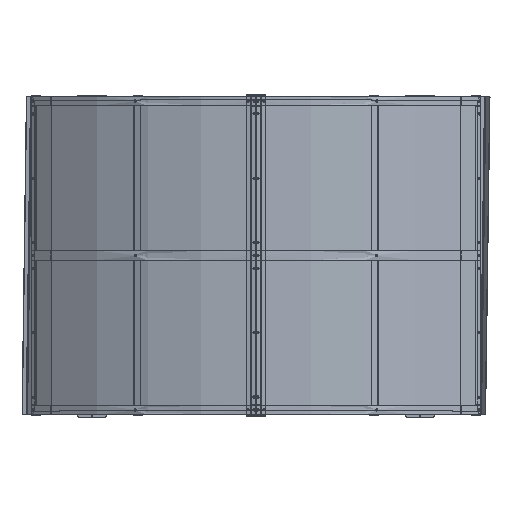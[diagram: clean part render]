
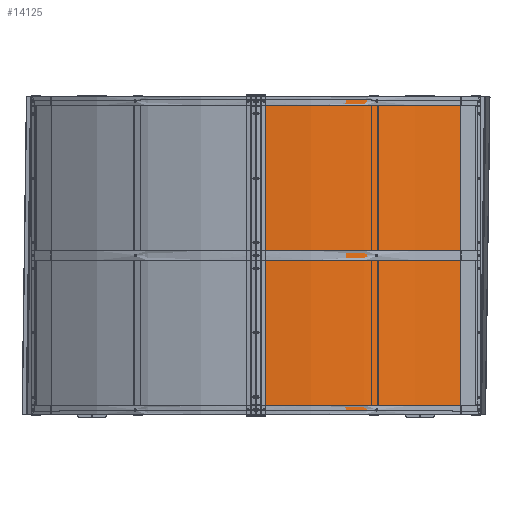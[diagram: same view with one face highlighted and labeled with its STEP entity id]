
A CAD part, top view. The second image highlights one B-rep face of the part: STEP entity #14125.
In plain terms, the highlighted cylindrical face has radius 1693.47 mm (diameter 3386.93 mm), a partial arc.
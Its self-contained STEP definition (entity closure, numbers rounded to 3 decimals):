
#1342=CYLINDRICAL_SURFACE('',#16009,1693.465);
#1707=CIRCLE('',#16002,1693.465);
#1709=CIRCLE('',#16006,1693.465);
#2943=ORIENTED_EDGE('',*,*,#6153,.F.);
#2944=ORIENTED_EDGE('',*,*,#6147,.F.);
#2945=ORIENTED_EDGE('',*,*,#6145,.T.);
#2946=ORIENTED_EDGE('',*,*,#6155,.T.);
#6145=EDGE_CURVE('',#7820,#7819,#1707,.T.);
#6147=EDGE_CURVE('',#7820,#7821,#9072,.T.);
#6153=EDGE_CURVE('',#7821,#7823,#1709,.T.);
#6155=EDGE_CURVE('',#7819,#7823,#9078,.T.);
#7819=VERTEX_POINT('',#23031);
#7820=VERTEX_POINT('',#23033);
#7821=VERTEX_POINT('',#23037);
#7823=VERTEX_POINT('',#23043);
#9072=LINE('',#23036,#10087);
#9078=LINE('',#23052,#10093);
#10087=VECTOR('',#18331,1000.);
#10093=VECTOR('',#18349,1000.);
#11115=EDGE_LOOP('',(#2943,#2944,#2945,#2946));
#12442=FACE_BOUND('',#11115,.T.);
#14125=ADVANCED_FACE('',(#12442),#1342,.T.);
#16002=AXIS2_PLACEMENT_3D('',#23032,#18326,#18327);
#16006=AXIS2_PLACEMENT_3D('',#23047,#18340,#18341);
#16009=AXIS2_PLACEMENT_3D('',#23051,#18347,#18348);
#18326=DIRECTION('',(0.,1.,0.));
#18327=DIRECTION('',(0.,0.,1.));
#18331=DIRECTION('',(0.,1.,0.));
#18340=DIRECTION('',(0.,1.,0.));
#18341=DIRECTION('',(0.,0.,1.));
#18347=DIRECTION('',(0.,1.,0.));
#18348=DIRECTION('',(0.,0.,1.));
#18349=DIRECTION('',(0.,1.,0.));
#23031=CARTESIAN_POINT('',(-126.516,0.,10.));
#23032=CARTESIAN_POINT('',(-126.516,0.,-1683.465));
#23033=CARTESIAN_POINT('',(-1180.723,0.,-358.146));
#23036=CARTESIAN_POINT('',(-1180.723,0.,-358.146));
#23037=CARTESIAN_POINT('',(-1180.723,1641.,-358.146));
#23043=CARTESIAN_POINT('',(-126.516,1641.,10.));
#23047=CARTESIAN_POINT('',(-126.516,1641.,-1683.465));
#23051=CARTESIAN_POINT('',(-126.516,0.,-1683.465));
#23052=CARTESIAN_POINT('',(-126.516,0.,10.));
